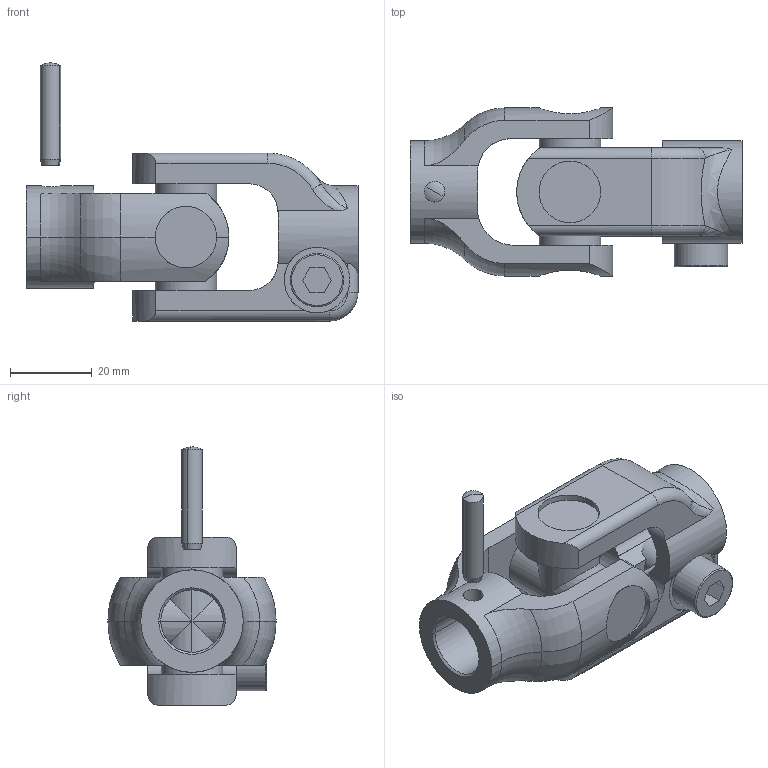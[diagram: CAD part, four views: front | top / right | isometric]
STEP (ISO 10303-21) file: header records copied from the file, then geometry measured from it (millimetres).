
FILE_DESCRIPTION(('CATIA V5 STEP Exchange','CAx-IF Rec.Pracs.--- Model Styling and Organization---1.5--- 2016-08-15','CAx-IF Rec.Pracs.---Supplemental Geometry---1.0---2011-11-01','CAx-IF Rec.Pracs.--- Composite Materials ---1.1---2010-07-15'),'2;1');
FILE_NAME('\\Arj-synology-1\ARJ社内Project\市販用 C-EPS 小型\ユニバーサルジョイント\ZU31_UNIVERSAL_JOINT_BOLT-WELD_with_PIN.stp','2026-03-06T08:58:05+00:00',('none'),('none'),'CATIA Version 5-6 Release 2022 SP4','CATIA V5 STEP AP214 v3','none');
FILE_SCHEMA(('AUTOMOTIVE_DESIGN { 1 0 10303 214 1 1 1 1 }'));
Length unit declared in the file: millimetre
Products named in the file (1): ZU31_UNIVERSAL_JOINT_BOLT-WELD_with_PIN
Bounding box: 81 x 41 x 63 mm (x, y, z)
Volume: 44481.8 mm3; surface area: 20026.5 mm2
Topology: 5 solids, 5 shells, 136 faces, 354 edges, 221 vertices
Faces by surface type: cylinder 64, plane 43, torus 14, cone 10, bspline 3, sphere 2
Entity records: 4789 total; most frequent: CARTESIAN_POINT 1757, ORIENTED_EDGE 704, DIRECTION 449, EDGE_CURVE 352, VERTEX_POINT 221, AXIS2_PLACEMENT_3D 218, VECTOR 150, LINE 150
